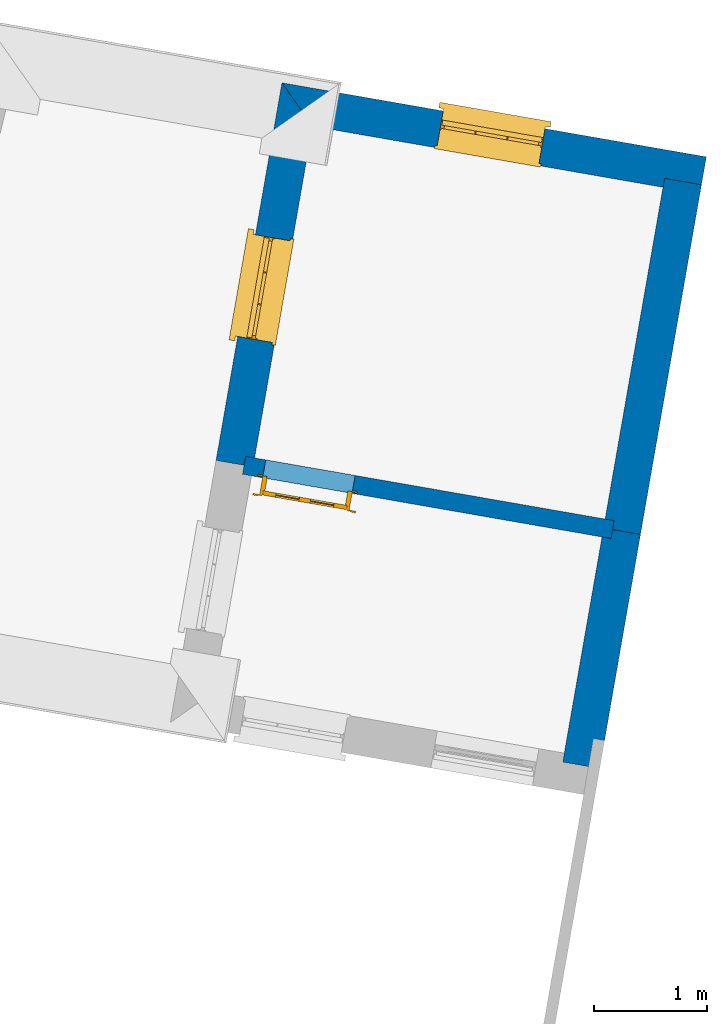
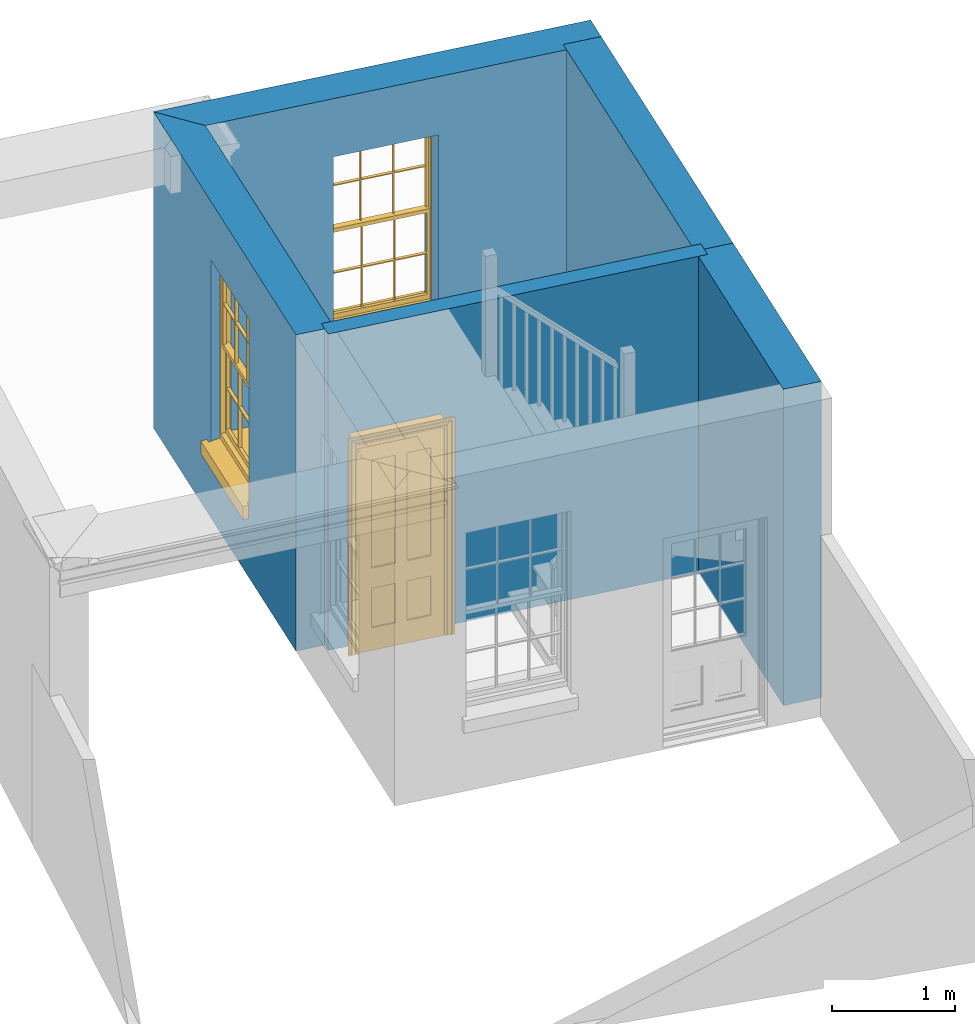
# One storey, part 3 of 4: 5 walls, 2 windows, 1 door, 3 openings.
"""IFC4 building model written with IfcOpenShell, lengths in metres."""

from ifc_helpers import new_model, si_unit, frame, origin, origin_with_axes, place, context, subcontext, project, spatial, polyline, outline, extrude, faceted_brep, source, transform, mapped, material, layer, layer_set, layer_usage, type_object, type_shapes, element, fill, save


model = new_model("IFC4")

# Units and contexts
model_context = context("Model", 3, world=origin_with_axes())
body_context = subcontext(model_context, "Body", "Model", "MODEL_VIEW")
ifc_project = project(units=[si_unit("PLANEANGLEUNIT", "RADIAN"), si_unit("MASSUNIT", "GRAM", prefix="KILO"), si_unit("FORCEUNIT", "NEWTON", prefix="KILO"), si_unit("LENGTHUNIT", "METRE"), si_unit("AREAUNIT", "SQUARE_METRE"), si_unit("VOLUMEUNIT", "CUBIC_METRE")], contexts=[model_context, model_context])

# Sites, building, storey
site_1_placement = place(None, origin_with_axes())
site_1 = spatial("IfcSite", under=ifc_project, at=site_1_placement, Name="Tamar")
site_2_placement = place(site_1_placement, origin_with_axes())
site_2 = spatial("IfcSite", under=site_1, at=site_2_placement, Name="Site plot-26", CompositionType="ELEMENT")
building_placement = place(None, origin_with_axes())
building = spatial("IfcBuilding", under=site_2, at=building_placement, Name="Building plot-26", CompositionType="ELEMENT")
storey_placement = place(None, frame((0.0, 0.0, 26.0), z_axis=(0.0, 0.0, 1.0), x_axis=(1.0, 0.0, 0.0)))
storey = spatial("IfcBuildingStorey", under=building, at=storey_placement, Name="plot-26 0", CompositionType="ELEMENT", Elevation=26.0)

# Wall, opening, window
ifc_material_1 = material(Name="Masonry")
ifc_layer_1 = layer(ifc_material_1, 0.33, ventilated=False)
ifc_layer_set_1 = layer_set([ifc_layer_1], Name="exterior_0.08_0.25")
ifc_layer_usage_1 = layer_usage(ifc_layer_set_1, "AXIS2", "POSITIVE", -0.25)
wall_type_1 = type_object("IfcWallType", Name="exterior_0.08_0.25", PredefinedType="SOLIDWALL", material=ifc_layer_set_1)
wall_1_placement = place(storey_placement, frame((291.598239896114, 275.42544442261, 0.0), z_axis=(0.0, 0.0, 1.0), x_axis=(-0.98513382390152, 0.171788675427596, 0.0)))
wall_1 = element("IfcWall", 1, at=wall_1_placement, inside=storey, type_object=wall_type_1, material=ifc_layer_usage_1, Name="exterior", context=body_context, shape_type="SweptSolid", body=[
    extrude(outline(polyline([(-0.25000000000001, 0.0800000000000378), (-0.250000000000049, -0.250000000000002), (3.54617851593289, -0.250000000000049), (3.21617851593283, 0.0800000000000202), (-0.25000000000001, 0.0800000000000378)])), origin_with_axes(), (0.0, 0.0, 1.0), 3.15),
])
opening_1_placement = place(wall_1_placement, frame((1.19308925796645, 0.0, 0.75)))
opening_1 = element("IfcOpeningElement", 2, at=opening_1_placement, cuts=wall_1, Name="My Opening", ObjectType="Opening", context=body_context, shape_type="SweptSolid", body=[
    extrude(outline(polyline([(0.0, -0.27000000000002), (0.91000000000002, -0.269999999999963), (0.910000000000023, 1.09999999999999), (2.44249065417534e-15, 1.09999999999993), (0.0, -0.27000000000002)])), origin_with_axes(), (0.0, 0.0, 1.0), 1.82),
])
window_type = type_object("IfcWindowType", Name="sash_big", PartitioningType="DOUBLE_PANEL_HORIZONTAL", PredefinedType="NOTDEFINED")
shared_shape_1 = source(origin(), body_context, "Body", "Brep", [
    faceted_brep([(0.033125, 0.145, 0.975209), (0.01, 0.145, 0.975209), (0.033125, 0.145, 1.376042), (0.876875, 0.145, 0.975209), (0.876875, 0.145, 1.376042), (0.9, 0.145, 0.975209), (0.876875, 0.145, 1.386042), (0.876875, 0.145, 1.786875), (0.9, 0.145, 1.81), (0.033125, 0.145, 1.786875), (0.033125, 0.145, 1.386042), (0.01, 0.145, 1.81), (0.876875, 0.115, 1.376042), (0.876875, 0.115, 0.975209), (0.9, 0.115, 0.937083), (0.033125, 0.115, 1.786875), (0.01, 0.115, 1.81), (0.033125, 0.115, 1.386042), (0.01, 0.115, 0.937083), (0.033125, 0.115, 0.975209), (0.033125, 0.115, 1.376042), (0.876875, 0.115, 1.786875), (0.876875, 0.115, 1.386042), (0.9, 0.115, 1.81), (0.033125, 0.145, 0.937083), (0.01, 0.145, 0.937083), (0.033125, 0.145, 0.53625), (0.876875, 0.145, 0.937083), (0.876875, 0.145, 0.53625), (0.9, 0.145, 0.937083), (0.876875, 0.145, 0.52625), (0.876875, 0.145, 0.125417), (0.9, 0.145, 0.077167), (0.033125, 0.145, 0.125417), (0.033125, 0.145, 0.52625), (0.01, 0.145, 0.077167), (-0.0425, 0.0, 0.01), (-0.0425, -0.05, 0.001667), (0.0, 0.0, 0.01), (0.9525, 0.0, 0.01), (0.91, 0.0, 0.01), (0.9525, -0.05, 0.001667), (-0.02, 0.33, 0.077167), (0.0, 0.33, 0.077167), (-0.02, 0.36, 0.077167), (0.0, 0.19, 0.077167), (0.01, 0.19, 0.077167), (0.91, 0.19, 0.077167), (0.91, 0.33, 0.077167), (0.9, 0.19, 0.077167), (0.93, 0.33, 0.077167), (0.93, 0.36, 0.077167), (0.01, 0.175, 0.975209), (0.9, 0.175, 0.975209), (0.876875, 0.175, 0.125417), (0.876875, 0.175, 0.52625), (0.9, 0.175, 0.077167), (0.876875, 0.175, 0.53625), (0.876875, 0.175, 0.937083), (0.033125, 0.175, 0.125417), (0.01, 0.175, 0.077167), (0.033125, 0.175, 0.52625), (0.033125, 0.175, 0.937083), (0.033125, 0.175, 0.53625), (-0.02, 0.33, 0.052167), (-0.02, 0.36, 0.052167), (0.93, 0.36, 0.052167), (0.93, 0.33, 0.052167), (0.91, 0.33, 0.052167), (0.0, 0.33, 0.052167), (0.91, 0.1, 0.026667), (0.0, 0.1, 0.026667), (-0.0425, -0.05, -0.123333), (0.9525, -0.05, -0.123333), (-0.0425, 0.0, -0.123333), (0.9525, 0.0, -0.123333), (0.01, 0.19, 1.81), (0.9, 0.19, 1.81), (0.0, 0.19, 1.82), (0.91, 0.19, 1.82), (0.01, 0.1, 0.077167), (0.9, 0.1, 0.077167), (0.592292, 0.145, 0.125417), (0.592292, 0.175, 0.125417), (0.317708, 0.175, 0.125417), (0.317708, 0.145, 0.125417), (0.592292, 0.145, 0.53625), (0.317708, 0.145, 0.53625), (0.317708, 0.145, 0.52625), (0.592292, 0.145, 0.52625), (0.592292, 0.175, 0.53625), (0.317708, 0.175, 0.53625), (0.592292, 0.115, 1.386042), (0.592292, 0.145, 1.386042), (0.317708, 0.145, 1.386042), (0.317708, 0.115, 1.386042), (0.317708, 0.115, 1.376042), (0.592292, 0.115, 1.376042), (0.317708, 0.145, 1.376042), (0.592292, 0.145, 1.376042), (0.602292, 0.115, 1.376042), (0.592292, 0.115, 0.975209), (0.602292, 0.115, 0.975209), (0.602292, 0.145, 0.975209), (0.592292, 0.145, 0.975209), (0.602292, 0.145, 1.376042), (0.602292, 0.175, 0.53625), (0.602292, 0.145, 0.53625), (0.317708, 0.175, 0.52625), (0.307708, 0.175, 0.125417), (0.307708, 0.175, 0.52625), (0.602292, 0.175, 0.52625), (0.602292, 0.175, 0.125417), (0.592292, 0.175, 0.52625), (0.307708, 0.175, 0.53625), (0.317708, 0.175, 0.937083), (0.307708, 0.175, 0.937083), (0.602292, 0.175, 0.937083), (0.592292, 0.175, 0.937083), (0.307708, 0.145, 0.52625), (0.307708, 0.145, 0.125417), (0.307708, 0.145, 0.53625), (0.307708, 0.145, 0.937083), (0.592292, 0.145, 0.937083), (0.317708, 0.145, 0.937083), (0.602292, 0.145, 0.937083), (0.602292, 0.145, 0.52625), (0.602292, 0.145, 0.125417), (0.307708, 0.115, 1.386042), (0.307708, 0.115, 1.376042), (0.307708, 0.115, 0.975209), (0.317708, 0.115, 0.975209), (0.317708, 0.115, 1.786875), (0.307708, 0.115, 1.786875), (0.602292, 0.115, 1.786875), (0.592292, 0.115, 1.786875), (0.602292, 0.115, 1.386042), (0.602292, 0.145, 1.386042), (0.307708, 0.145, 1.386042), (0.307708, 0.145, 1.786875), (0.317708, 0.145, 1.786875), (0.592292, 0.145, 1.786875), (0.602292, 0.145, 1.786875), (0.307708, 0.145, 1.376042), (0.317708, 0.145, 0.975209), (0.307708, 0.145, 0.975209), (0.91, 0.1, 1.82), (0.9, 0.1, 1.81), (0.01, 0.1, 1.81), (0.0, 0.1, 1.82), (0.91, 0.0, 0.0), (0.0, 0.0, 0.0), (0.91, 0.33, 0.0), (0.0, 0.33, 0.0)], [[[0, 1, 2]], [[3, 4, 5]], [[6, 7, 8]], [[9, 10, 11]], [[12, 13, 14]], [[15, 16, 17]], [[18, 19, 20]], [[21, 22, 23]], [[24, 25, 26]], [[27, 28, 29]], [[30, 31, 32]], [[33, 34, 35]], [[14, 27, 29]], [[25, 24, 18]], [[36, 37, 38]], [[39, 40, 41]], [[42, 43, 44]], [[45, 46, 43]], [[47, 48, 49]], [[50, 51, 48]], [[1, 0, 52]], [[5, 53, 3]], [[54, 55, 56]], [[57, 58, 53]], [[59, 60, 61]], [[62, 63, 52]], [[48, 43, 46, 49]], [[51, 44, 43, 48]], [[64, 42, 44, 65]], [[65, 44, 51, 66]], [[66, 51, 50, 67]], [[65, 66, 68, 69]], [[60, 56, 49, 46]], [[70, 71, 38, 40]], [[37, 41, 40, 38]], [[37, 72, 73, 41]], [[74, 75, 73, 72]], [[8, 11, 76, 77]], [[76, 78, 79, 77]], [[32, 35, 80, 81]], [[81, 80, 71, 70]], [[82, 83, 84, 85]], [[86, 87, 88, 89]], [[86, 90, 91, 87]], [[92, 93, 94, 95]], [[92, 95, 96, 97]], [[96, 98, 99, 97]], [[100, 97, 101, 102]], [[103, 104, 99, 105]], [[97, 99, 104, 101]], [[102, 103, 105, 100]], [[28, 57, 106, 107]], [[108, 84, 109, 110]], [[111, 112, 83, 113]], [[114, 110, 61, 63]], [[90, 113, 108, 91]], [[115, 91, 114, 116]], [[117, 106, 90, 118]], [[111, 106, 57, 55]], [[119, 110, 109, 120]], [[34, 61, 110, 119]], [[89, 113, 83, 82]], [[88, 108, 113, 89]], [[85, 84, 108, 88]], [[121, 114, 63, 26]], [[122, 116, 114, 121]], [[123, 118, 90, 86]], [[87, 91, 115, 124]], [[107, 106, 117, 125]], [[126, 111, 55, 30]], [[127, 112, 111, 126]], [[126, 30, 28, 107]], [[88, 119, 120, 85]], [[126, 89, 82, 127]], [[125, 123, 86, 107]], [[121, 26, 34, 119]], [[124, 122, 121, 87]], [[128, 17, 20, 129]], [[96, 129, 130, 131]], [[132, 133, 128, 95]], [[134, 135, 92, 136]], [[100, 12, 22, 136]], [[137, 6, 4, 105]], [[94, 138, 139, 140]], [[137, 93, 141, 142]], [[99, 98, 94, 93]], [[143, 2, 10, 138]], [[144, 145, 143, 98]], [[129, 143, 145, 130]], [[20, 2, 143, 129]], [[131, 144, 98, 96]], [[128, 138, 10, 17]], [[133, 139, 138, 128]], [[135, 141, 93, 92]], [[95, 94, 140, 132]], [[22, 6, 137, 136]], [[136, 137, 142, 134]], [[100, 105, 4, 12]], [[107, 86, 89, 126]], [[106, 111, 113, 90]], [[91, 108, 110, 114]], [[87, 121, 119, 88]], [[97, 100, 136, 92]], [[129, 96, 95, 128]], [[98, 143, 138, 94]], [[105, 99, 93, 137]], [[131, 101, 104, 144]], [[124, 115, 118, 123]], [[132, 140, 141, 135]], [[120, 109, 59, 33]], [[15, 9, 139, 133]], [[134, 142, 7, 21]], [[31, 54, 112, 127]], [[36, 74, 72, 37]], [[39, 41, 73, 75]], [[18, 14, 101, 131]], [[23, 16, 132, 135]], [[83, 56, 60, 84]], [[52, 53, 118, 115]], [[53, 52, 144, 104]], [[11, 8, 141, 140]], [[14, 18, 124, 123]], [[2, 1, 11, 10]], [[8, 5, 4, 6]], [[57, 53, 56, 55]], [[60, 52, 63, 61]], [[26, 25, 35, 34]], [[32, 29, 28, 30]], [[14, 23, 22, 12]], [[18, 20, 17, 16]], [[19, 0, 2, 20]], [[17, 10, 9, 15]], [[12, 4, 3, 13]], [[21, 7, 6, 22]], [[27, 58, 57, 28]], [[30, 55, 54, 31]], [[33, 59, 61, 34]], [[26, 63, 62, 24]], [[5, 8, 77, 53]], [[76, 11, 1, 52]], [[46, 45, 78, 76]], [[49, 77, 79, 47]], [[70, 146, 147, 81]], [[71, 80, 148, 149]], [[19, 130, 145, 0]], [[102, 13, 3, 103]], [[116, 122, 24, 62]], [[29, 32, 81, 14]], [[80, 35, 25, 18]], [[60, 46, 76, 52]], [[77, 49, 56, 53]], [[23, 14, 81, 147]], [[16, 148, 80, 18]], [[35, 85, 120]], [[120, 33, 35]], [[127, 82, 32]], [[32, 31, 127]], [[32, 82, 85, 35]], [[102, 101, 14]], [[14, 13, 102]], [[18, 131, 130]], [[130, 19, 18]], [[134, 21, 23]], [[23, 135, 134]], [[16, 15, 133]], [[133, 132, 16]], [[11, 140, 139]], [[139, 9, 11]], [[142, 141, 8]], [[8, 7, 142]], [[23, 147, 148, 16]], [[146, 149, 148, 147]], [[52, 115, 116]], [[116, 62, 52]], [[118, 53, 117]], [[58, 117, 53]], [[27, 125, 117, 58]], [[56, 83, 112]], [[112, 54, 56]], [[109, 84, 60]], [[60, 59, 109]], [[125, 27, 14]], [[14, 123, 125]], [[122, 124, 18]], [[18, 24, 122]], [[145, 144, 52]], [[52, 0, 145]], [[103, 3, 53]], [[53, 104, 103]], [[79, 78, 149, 146]], [[78, 45, 71, 149]], [[146, 70, 47, 79]], [[150, 75, 74, 151]], [[68, 66, 67]], [[48, 68, 67, 50]], [[69, 64, 65]], [[42, 64, 69, 43]], [[69, 68, 152, 153]], [[70, 68, 48, 47]], [[150, 152, 68, 70]], [[43, 69, 71, 45]], [[69, 153, 151, 71]], [[152, 150, 151, 153]], [[38, 151, 74, 36]], [[71, 151, 38]], [[39, 75, 150, 40]], [[40, 150, 70]]]),
])
type_shapes(window_type, [shared_shape_1])
window_1_placement = place(storey_placement, frame((290.469270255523, 275.896389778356, 0.75), z_axis=(0.0, 0.0, 1.0), x_axis=(-0.896471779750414, 0.15632769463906, 0.0)))
window_1 = element("IfcWindow", 3, at=window_1_placement, inside=storey, type_object=window_type, Name="toilet street window", OverallHeight=1.82, OverallWidth=0.91, context=body_context, shape_type="MappedRepresentation", body=[
    mapped(shared_shape_1, transform((0.0, 0.0, 0.0), scale=1.0)),
])
fill(opening_1, window_1)

wall_2_placement = place(storey_placement, frame((288.351062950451, 275.991690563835, 0.0), z_axis=(0.0, 0.0, 1.0), x_axis=(-0.171788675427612, -0.985133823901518, 0.0)))
wall_2 = element("IfcWall", 4, at=wall_2_placement, inside=storey, type_object=wall_type_1, material=ifc_layer_usage_1, Name="exterior", context=body_context, shape_type="SweptSolid", body=[
    extrude(outline(polyline([(0.0800000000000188, 0.0800000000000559), (-0.250000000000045, -0.250000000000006), (3.12768255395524, -0.250000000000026), (3.12768255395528, 0.0800000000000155), (0.0800000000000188, 0.0800000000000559)])), origin_with_axes(), (0.0, 0.0, 1.0), 3.15),
])
opening_2_placement = place(wall_2_placement, frame((1.10884127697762, 0.0, 0.75)))
opening_2 = element("IfcOpeningElement", 5, at=opening_2_placement, cuts=wall_2, Name="My Opening", ObjectType="Opening", context=body_context, shape_type="SweptSolid", body=[
    extrude(outline(polyline([(0.0, -0.270000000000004), (0.909999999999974, -0.269999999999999), (0.91000000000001, 1.09999999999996), (3.48610029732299e-14, 1.09999999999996), (0.0, -0.270000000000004)])), origin_with_axes(), (0.0, 0.0, 1.0), 1.82),
])
window_2_placement = place(storey_placement, frame((287.894590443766, 274.945716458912, 0.75), z_axis=(0.0, 0.0, 1.0), x_axis=(-0.156327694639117, -0.896471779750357, 0.0)))
window_2 = element("IfcWindow", 6, at=window_2_placement, inside=storey, type_object=window_type, Name="toilet outside window", OverallHeight=1.82, OverallWidth=0.91, context=body_context, shape_type="MappedRepresentation", body=[
    mapped(shared_shape_1, transform((0.0, 0.0, 0.0), scale=1.0)),
])
fill(opening_2, window_2)

# Walls
ifc_material_2 = material(Name="Masonry")
ifc_layer_2 = layer(ifc_material_2, 0.33, ventilated=False)
ifc_layer_set_2 = layer_set([ifc_layer_2], Name="party_0.08_0.25")
ifc_layer_usage_2 = layer_usage(ifc_layer_set_2, "AXIS2", "POSITIVE", -0.25)
wall_type_2 = type_object("IfcWallType", Name="party_0.08_0.25", PredefinedType="SOLIDWALL", material=ifc_layer_set_2)
wall_3_placement = place(storey_placement, frame((290.701234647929, 270.281506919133, 0.0), z_axis=(0.0, 0.0, 1.0), x_axis=(0.171788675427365, 0.985133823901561, 0.0)))
element("IfcWall", 7, at=wall_3_placement, inside=storey, type_object=wall_type_2, material=ifc_layer_usage_2, Name="party", context=body_context, shape_type="SweptSolid", body=[
    extrude(outline(polyline([(-2.15600734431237e-14, 0.0800000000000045), (2.99358185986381e-14, -0.250000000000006), (2.09387961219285, -0.250000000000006), (2.0938796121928, 0.0800000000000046), (-2.15600734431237e-14, 0.0800000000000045)])), origin_with_axes(), (0.0, 0.0, 1.0), 3.15),
])
wall_4_placement = place(storey_placement, frame((291.060939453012, 272.344258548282, 0.0), z_axis=(0.0, 0.0, 1.0), x_axis=(0.171788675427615, 0.985133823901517, 0.0)))
element("IfcWall", 8, at=wall_4_placement, inside=storey, type_object=wall_type_2, material=ifc_layer_usage_2, Name="party", context=body_context, shape_type="SweptSolid", body=[
    extrude(outline(polyline([(-4.18815956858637e-14, 0.0800000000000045), (9.34405756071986e-14, -0.250000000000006), (3.12768255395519, -0.250000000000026), (3.12768255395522, 0.0800000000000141), (-4.18815956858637e-14, 0.0800000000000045)])), origin_with_axes(), (0.0, 0.0, 1.0), 3.15),
])

# Wall, opening, door
ifc_material_3 = material(Name="Masonry")
ifc_layer_3 = layer(ifc_material_3, 0.16, ventilated=False)
ifc_layer_set_3 = layer_set([ifc_layer_3], Name="interior_0.08_0.08")
ifc_layer_usage_3 = layer_usage(ifc_layer_set_3, "AXIS2", "POSITIVE", -0.08)
wall_type_3 = type_object("IfcWallType", Name="interior_0.08_0.08", PredefinedType="SOLIDWALL", material=ifc_layer_set_3)
wall_5_placement = place(storey_placement, frame((291.060939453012, 272.344258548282, 0.0), z_axis=(0.0, 0.0, 1.0), x_axis=(-0.985133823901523, 0.171788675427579, 0.0)))
wall_5 = element("IfcWall", 9, at=wall_5_placement, inside=storey, type_object=wall_type_3, material=ifc_layer_usage_3, Name="interior", context=body_context, shape_type="SweptSolid", body=[
    extrude(outline(polyline([(1.7057924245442e-14, 0.0800000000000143), (-1.70481270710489e-14, -0.0800000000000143), (3.29617851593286, -0.0800000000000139), (3.29617851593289, 0.0800000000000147), (1.7057924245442e-14, 0.0800000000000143)])), origin_with_axes(), (0.0, 0.0, 1.0), 3.15),
])
opening_3_placement = place(wall_5_placement, frame((2.31617851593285, 0.0, 0.0199999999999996)))
opening_3 = element("IfcOpeningElement", 10, at=opening_3_placement, cuts=wall_5, Name="My Opening", ObjectType="Opening", context=body_context, shape_type="SweptSolid", body=[
    extrude(outline(polyline([(0.0, -0.0999999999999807), (0.800000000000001, -0.100000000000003), (0.800000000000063, 1.1), (6.08402217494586e-14, 1.10000000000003), (0.0, -0.0999999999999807)])), origin_with_axes(), (0.0, 0.0, 1.0), 2.1),
])
door_type = type_object("IfcDoorType", Name="door_inside", OperationType="SINGLE_SWING_LEFT", PredefinedType="NOTDEFINED")
shared_shape_2 = source(origin(), body_context, "Body", "Brep", [
    faceted_brep([(0.773, 0.33, 1.895), (0.66, 0.33, 1.895), (0.66, 0.33, 2.073), (0.773, 0.33, 2.073), (0.773, 0.33, 0.82), (0.66, 0.33, 0.82), (0.45, 0.33, 1.895), (0.45, 0.33, 2.073), (0.773, 0.33, 0.62), (0.66, 0.33, 0.62), (0.66, 0.315, 0.82), (0.66, 0.315, 1.895), (0.45, 0.315, 1.895), (0.35, 0.33, 1.895), (0.35, 0.33, 2.073), (0.773, 0.33, 0.225), (0.66, 0.33, 0.225), (0.45, 0.33, 0.62), (0.45, 0.33, 0.82), (0.45, 0.315, 0.82), (0.35, 0.33, 0.82), (0.14, 0.33, 2.073), (0.14, 0.33, 1.895), (0.773, 0.33, 0.0), (0.66, 0.33, 0.0), (0.66, 0.315, 0.225), (0.66, 0.315, 0.62), (0.45, 0.315, 0.62), (0.35, 0.33, 0.62), (0.35, 0.315, 0.82), (0.35, 0.315, 1.895), (0.14, 0.315, 1.895), (0.027, 0.33, 2.073), (0.027, 0.33, 1.895), (0.773, 0.292, 0.0), (0.66, 0.292, 0.0), (0.45, 0.33, 0.0), (0.45, 0.33, 0.225), (0.45, 0.315, 0.225), (0.35, 0.33, 0.225), (0.14, 0.33, 0.82), (0.14, 0.33, 0.62), (0.14, 0.315, 0.82), (0.027, 0.33, 0.82), (0.773, 0.292, 0.225), (0.66, 0.292, 0.225), (0.45, 0.292, 0.0), (0.35, 0.33, 0.0), (0.35, 0.315, 0.225), (0.35, 0.315, 0.62), (0.14, 0.315, 0.62), (0.027, 0.33, 0.62), (0.773, 0.292, 0.62), (0.66, 0.292, 0.62), (0.45, 0.292, 0.225), (0.35, 0.292, 0.0), (0.14, 0.33, 0.225), (0.14, 0.33, 0.0), (0.14, 0.315, 0.225), (0.027, 0.33, 0.225), (0.773, 0.292, 0.82), (0.66, 0.292, 0.82), (0.66, 0.307, 0.62), (0.66, 0.307, 0.225), (0.45, 0.307, 0.225), (0.35, 0.292, 0.225), (0.14, 0.292, 0.0), (0.027, 0.33, 0.0), (0.773, 0.292, 1.895), (0.66, 0.292, 1.895), (0.45, 0.292, 0.62), (0.45, 0.292, 0.82), (0.45, 0.307, 0.62), (0.35, 0.292, 0.62), (0.14, 0.292, 0.225), (0.027, 0.292, 0.0), (0.773, 0.292, 2.073), (0.66, 0.292, 2.073), (0.66, 0.307, 1.895), (0.66, 0.307, 0.82), (0.45, 0.307, 0.82), (0.35, 0.292, 0.82), (0.35, 0.307, 0.62), (0.35, 0.307, 0.225), (0.14, 0.307, 0.225), (0.027, 0.292, 0.225), (0.45, 0.292, 1.895), (0.45, 0.292, 2.073), (0.45, 0.307, 1.895), (0.35, 0.292, 1.895), (0.14, 0.292, 0.82), (0.14, 0.292, 0.62), (0.14, 0.307, 0.62), (0.027, 0.292, 0.62), (0.35, 0.292, 2.073), (0.35, 0.307, 1.895), (0.35, 0.307, 0.82), (0.14, 0.307, 0.82), (0.027, 0.292, 0.82), (0.14, 0.292, 2.073), (0.14, 0.292, 1.895), (0.14, 0.307, 1.895), (0.027, 0.292, 1.895), (0.027, 0.292, 2.073), (0.02, 0.335, 0.0), (0.005, 0.34, 0.0), (0.005, 0.34, 2.095), (0.02, 0.335, 2.08), (0.02, 0.33, 0.0), (0.0, 0.335, 0.0), (0.0, 0.335, 2.1), (0.795, 0.34, 2.095), (0.78, 0.335, 2.08), (0.02, 0.33, 2.08), (0.0, 0.33, 0.0), (-0.032, 0.345, 0.0), (-0.032, 0.345, 2.132), (0.8, 0.335, 2.1), (0.795, 0.34, 0.0), (0.78, 0.335, 0.0), (0.78, 0.33, 2.08), (0.04, 0.29, 0.0), (0.025, 0.29, 0.0), (0.025, 0.29, 2.075), (0.04, 0.29, 2.06), (-0.04, 0.34, 0.0), (-0.04, 0.34, 2.14), (0.832, 0.345, 2.132), (0.8, 0.335, 0.0), (0.78, 0.33, 0.0), (0.8, 0.33, 0.0), (0.86, 0.33, 0.0), (0.86, 0.33, 2.16), (0.8, 0.33, 2.1), (-0.06, 0.33, 2.16), (0.0, 0.33, 2.1), (-0.06, 0.33, 0.0), (-0.04, 0.345, 0.0), (-0.04, 0.345, 2.14), (0.84, 0.34, 2.14), (0.832, 0.345, 0.0), (0.84, 0.34, 0.0), (0.86, 0.345, 0.0), (0.86, 0.345, 2.16), (-0.06, 0.345, 2.16), (-0.06, 0.345, 0.0), (0.84, 0.345, 0.0), (0.84, 0.345, 2.14), (-0.025, 0.155, 0.0), (-0.025, 0.16, 0.0), (-0.025, 0.16, 2.125), (-0.025, 0.155, 2.125), (-0.017, 0.155, 0.0), (-0.017, 0.155, 2.117), (0.825, 0.16, 2.125), (0.825, 0.155, 2.125), (0.825, 0.155, 0.0), (0.845, 0.155, 0.0), (-0.045, 0.155, 2.145), (-0.045, 0.155, 0.0), (0.845, 0.155, 2.145), (0.015, 0.165, 0.0), (0.015, 0.165, 2.085), (0.817, 0.155, 2.117), (0.825, 0.16, 0.0), (0.845, 0.17, 0.0), (0.845, 0.17, 2.145), (-0.045, 0.17, 2.145), (-0.045, 0.17, 0.0), (0.02, 0.16, 0.0), (0.02, 0.16, 2.08), (0.785, 0.165, 2.085), (0.817, 0.155, 0.0), (0.8, 0.17, 0.0), (0.8, 0.17, 2.1), (0.0, 0.17, 2.1), (0.0, 0.17, 0.0), (0.035, 0.165, 0.0), (0.035, 0.165, 2.065), (0.78, 0.16, 2.08), (0.785, 0.165, 0.0), (0.775, 0.29, 2.075), (0.76, 0.29, 2.06), (0.035, 0.17, 2.065), (0.035, 0.17, 0.0), (0.765, 0.165, 2.065), (0.78, 0.16, 0.0), (0.765, 0.17, 0.0), (0.765, 0.17, 2.065), (0.765, 0.165, 0.0), (0.04, 0.17, 2.06), (0.04, 0.17, 0.0), (0.76, 0.17, 2.06), (0.76, 0.17, 0.0), (0.76, 0.29, 0.0), (0.775, 0.29, 0.0), (0.025, 0.33, 0.0), (0.025, 0.33, 2.075), (0.775, 0.33, 0.0), (0.775, 0.33, 2.075)], [[[0, 1, 2, 3]], [[1, 0, 4, 5]], [[1, 6, 7, 2]], [[8, 9, 5, 4]], [[1, 5, 10, 11]], [[6, 1, 11, 12]], [[6, 13, 14, 7]], [[15, 16, 9, 8]], [[9, 17, 18, 5]], [[5, 18, 19, 10]], [[10, 19, 12, 11]], [[18, 6, 12, 19]], [[18, 20, 13, 6]], [[21, 14, 13, 22]], [[23, 24, 16, 15]], [[9, 16, 25, 26]], [[17, 9, 26, 27]], [[17, 28, 20, 18]], [[13, 20, 29, 30]], [[22, 13, 30, 31]], [[32, 21, 22, 33]], [[34, 35, 24, 23]], [[24, 36, 37, 16]], [[16, 37, 38, 25]], [[25, 38, 27, 26]], [[37, 17, 27, 38]], [[37, 39, 28, 17]], [[40, 20, 28, 41]], [[20, 40, 42, 29]], [[31, 30, 29, 42]], [[40, 22, 31, 42]], [[33, 22, 40, 43]], [[35, 34, 44, 45]], [[35, 46, 36, 24]], [[36, 47, 39, 37]], [[28, 39, 48, 49]], [[41, 28, 49, 50]], [[43, 40, 41, 51]], [[45, 44, 52, 53]], [[46, 35, 45, 54]], [[46, 55, 47, 36]], [[56, 39, 47, 57]], [[39, 56, 58, 48]], [[50, 49, 48, 58]], [[56, 41, 50, 58]], [[51, 41, 56, 59]], [[53, 52, 60, 61]], [[45, 53, 62, 63]], [[54, 45, 63, 64]], [[55, 46, 54, 65]], [[55, 66, 57, 47]], [[59, 56, 57, 67]], [[61, 60, 68, 69]], [[70, 53, 61, 71]], [[53, 70, 72, 62]], [[72, 64, 63, 62]], [[70, 54, 64, 72]], [[65, 54, 70, 73]], [[65, 74, 66, 55]], [[67, 57, 66, 75]], [[69, 68, 76, 77]], [[61, 69, 78, 79]], [[71, 61, 79, 80]], [[73, 70, 71, 81]], [[65, 73, 82, 83]], [[74, 65, 83, 84]], [[74, 85, 75, 66]], [[86, 69, 77, 87]], [[69, 86, 88, 78]], [[88, 80, 79, 78]], [[86, 71, 80, 88]], [[81, 71, 86, 89]], [[73, 81, 90, 91]], [[73, 91, 92, 82]], [[83, 82, 92, 84]], [[91, 74, 84, 92]], [[91, 93, 85, 74]], [[89, 86, 87, 94]], [[81, 89, 95, 96]], [[90, 81, 96, 97]], [[90, 98, 93, 91]], [[94, 99, 100, 89]], [[89, 100, 101, 95]], [[101, 97, 96, 95]], [[100, 90, 97, 101]], [[100, 102, 98, 90]], [[99, 103, 102, 100]], [[32, 103, 99, 21]], [[102, 103, 32, 33]], [[98, 102, 33, 43]], [[21, 99, 94, 14]], [[94, 87, 7, 14]], [[7, 87, 77, 2]], [[76, 3, 2, 77]], [[43, 51, 93, 98]], [[51, 59, 85, 93]], [[67, 75, 85, 59]], [[34, 23, 15, 44]], [[44, 15, 8, 52]], [[52, 8, 4, 60]], [[0, 68, 60, 4]], [[0, 3, 76, 68]], [[104, 105, 106, 107]], [[104, 108, 109, 105]], [[105, 109, 110, 106]], [[107, 106, 111, 112]], [[107, 113, 108, 104]], [[114, 109, 108]], [[109, 115, 116, 110]], [[106, 110, 117, 111]], [[112, 111, 118, 119]], [[113, 107, 112, 120]], [[121, 122, 123, 124]], [[115, 109, 114, 125]], [[115, 125, 126, 116]], [[110, 116, 127, 117]], [[111, 117, 128, 118]], [[118, 128, 129, 119]], [[120, 112, 119, 129]], [[130, 129, 128]], [[130, 131, 132, 133]], [[133, 132, 134, 135]], [[135, 134, 136, 114]], [[136, 125, 114]], [[125, 137, 138, 126]], [[116, 126, 139, 127]], [[117, 127, 140, 128]], [[141, 130, 128, 140]], [[131, 130, 141]], [[131, 142, 143, 132]], [[132, 143, 144, 134]], [[134, 144, 145, 136]], [[137, 125, 136, 145]], [[143, 142, 146]], [[143, 146, 147]], [[137, 145, 144]], [[143, 147, 138]], [[138, 137, 144]], [[143, 138, 144]], [[126, 138, 147, 139]], [[127, 139, 141, 140]], [[142, 131, 141, 146]], [[139, 147, 146, 141]], [[148, 149, 150, 151]], [[149, 152, 153, 150]], [[151, 150, 154, 155]], [[155, 156, 157]], [[158, 159, 148]], [[158, 148, 151]], [[155, 157, 160]], [[158, 151, 155]], [[155, 160, 158]], [[152, 161, 162, 153]], [[150, 153, 163, 154]], [[155, 154, 164, 156]], [[156, 164, 165, 157]], [[157, 165, 166, 160]], [[160, 166, 167, 158]], [[158, 167, 168, 159]], [[161, 169, 170, 162]], [[153, 162, 171, 163]], [[154, 163, 172, 164]], [[165, 164, 173]], [[165, 173, 174, 166]], [[166, 174, 175, 167]], [[167, 175, 176, 168]], [[169, 177, 178, 170]], [[162, 170, 179, 171]], [[163, 171, 180, 172]], [[172, 180, 173, 164]], [[124, 123, 181, 182]], [[183, 178, 177, 184]], [[170, 178, 185, 179]], [[171, 179, 186, 180]], [[187, 173, 180]], [[185, 188, 187, 189]], [[188, 185, 178, 183]], [[179, 185, 189, 186]], [[189, 187, 180, 186]], [[190, 183, 184, 191]], [[192, 188, 183, 190]], [[191, 184, 122, 121]], [[124, 190, 191, 121]], [[193, 187, 188, 192]], [[182, 192, 190, 124]], [[184, 176, 122]], [[194, 195, 187, 193]], [[192, 182, 194, 193]], [[161, 176, 184]], [[114, 108, 122, 176]], [[173, 187, 195]], [[152, 149, 176, 161]], [[169, 161, 184, 177]], [[196, 122, 108]], [[176, 175, 135, 114]], [[173, 195, 129, 130]], [[176, 149, 168]], [[123, 122, 196, 197]], [[196, 108, 113, 197]], [[175, 174, 133, 135]], [[198, 129, 195]], [[133, 174, 173, 130]], [[159, 168, 149, 148]], [[181, 123, 197, 199]], [[197, 113, 120, 199]], [[199, 120, 129, 198]], [[195, 181, 199, 198]], [[195, 194, 182, 181]]]),
])
type_shapes(door_type, [shared_shape_2])
door_placement = place(storey_placement, frame((288.796372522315, 272.840665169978, 0.0199999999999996), z_axis=(0.0, 0.0, 1.0), x_axis=(-0.788107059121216, 0.137430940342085, 0.0)))
door = element("IfcDoor", 11, at=door_placement, inside=storey, type_object=door_type, Name="toilet inside door", OverallHeight=2.1, OverallWidth=0.8, context=body_context, shape_type="MappedRepresentation", body=[
    mapped(shared_shape_2, transform((0.0, 0.0, 0.0), scale=1.0)),
])
fill(opening_3, door)

save(model, "model.ifc")
